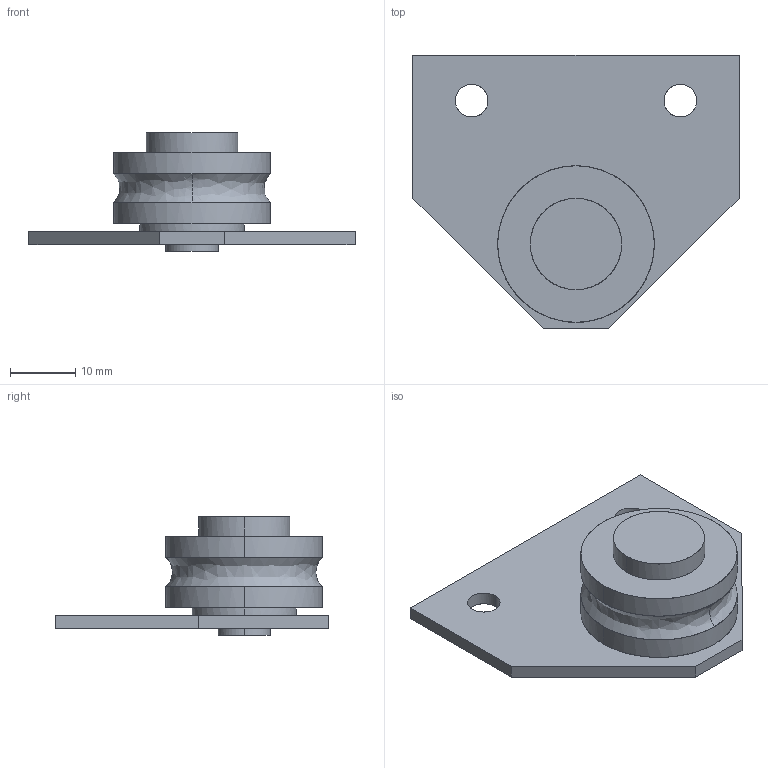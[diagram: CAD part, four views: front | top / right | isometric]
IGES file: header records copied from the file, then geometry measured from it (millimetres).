
Global section: file name: No Iges File Name specified; native system: AutoDesk Inventor R11.0; preprocessor: AutoDesk Inventor Iges Exporter R11.0; author: No Author specified; organization: No Organization specified; date: 20190511.111142; units: millimetre
Bounding box: 50 x 42 x 18.2 mm (x, y, z)
Surface area: 5679.3 mm2 (no closed solid volume)
Topology: 0 solids, 0 shells, 31 faces, 204 edges, 204 vertices
Faces by surface type: bspline 31
